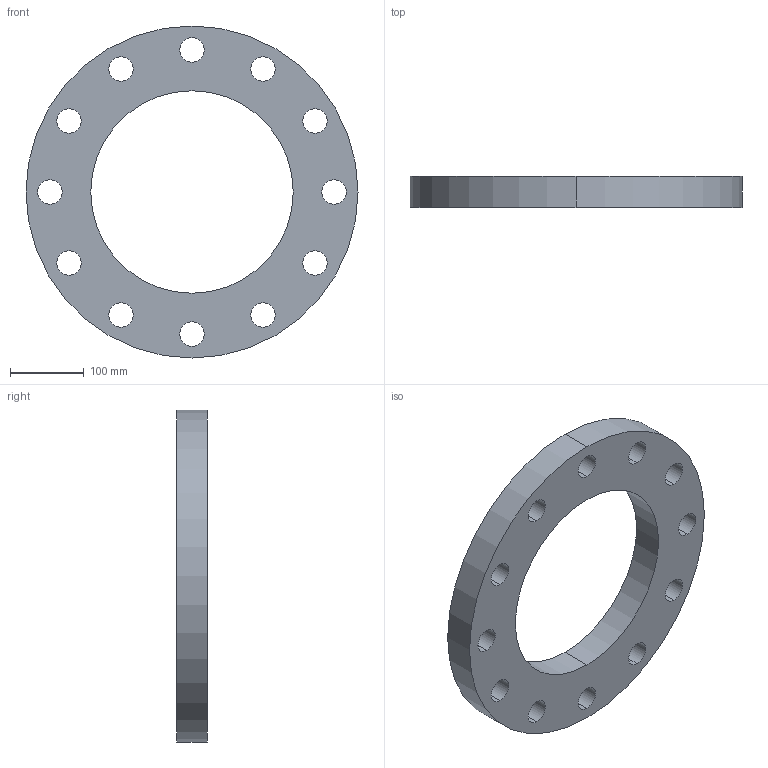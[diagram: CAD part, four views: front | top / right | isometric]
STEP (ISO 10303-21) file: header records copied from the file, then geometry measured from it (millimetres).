
FILE_DESCRIPTION (( 'STEP AP203' ), '1' );
FILE_NAME ('3D_R182-PN40_DN273_176230250.STEP', '2024-07-05T10:34:51', ( '' ), ( '' ), 'SwSTEP 2.0', 'SolidWorks 2024', '' );
FILE_SCHEMA (( 'CONFIG_CONTROL_DESIGN' ));
Length unit declared in the file: millimetre
Products named in the file (1): 3D_R182-PN40_DN273_176230250
Bounding box: 450 x 42 x 450 mm (x, y, z)
Volume: 3763183.1 mm3; surface area: 327045.7 mm2
Topology: 1 solids, 1 shells, 30 faces, 84 edges, 56 vertices
Faces by surface type: cylinder 28, plane 2
Entity records: 1133 total; most frequent: DIRECTION 202, CARTESIAN_POINT 171, ORIENTED_EDGE 168, AXIS2_PLACEMENT_3D 87, EDGE_CURVE 84, EDGE_LOOP 56, CIRCLE 56, VERTEX_POINT 56
